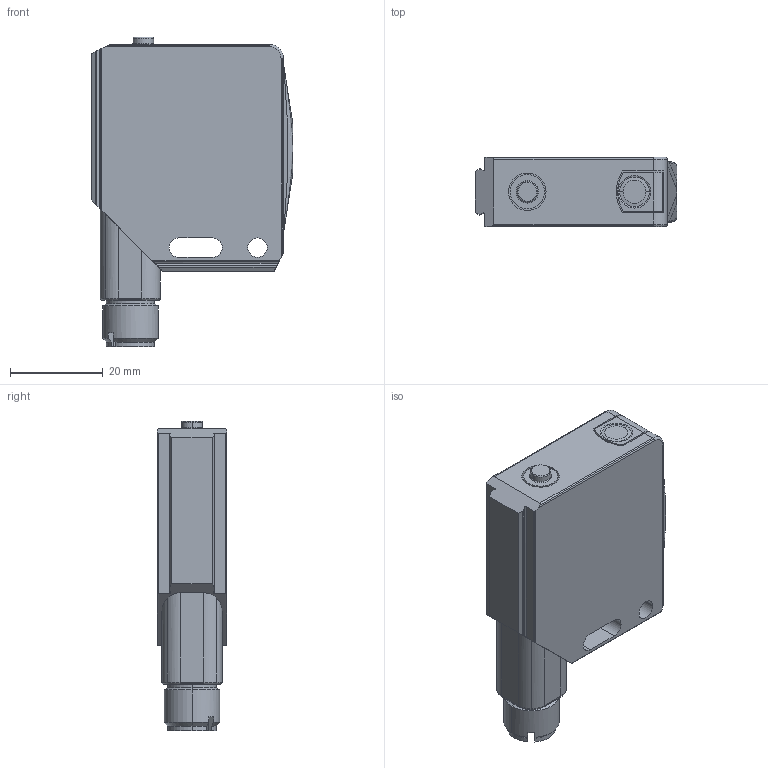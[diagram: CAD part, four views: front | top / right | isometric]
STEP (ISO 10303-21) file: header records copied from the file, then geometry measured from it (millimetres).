
FILE_DESCRIPTION((''),'2;1');
FILE_NAME('Y:\Microsonic\100436 Sensoren\Garantie\G2_Daten\050823_Austauschformate\STP\ucs-15_CX_QM.stp','2005-08-23T14:45:00',('ohle'),(''),'Autodesk Inventor 7','Autodesk Inventor 7','');
FILE_SCHEMA(('AUTOMOTIVE_DESIGN { 1 0 10303 214 1 1 1 1 }'));
Length unit declared in the file: millimetre
Products named in the file (1): ucs-15_CX_QM
Bounding box: 43.51 x 15 x 66.85 mm (x, y, z)
Volume: 30265 mm3; surface area: 8302.4 mm2
Topology: 1 solids, 1 shells, 179 faces, 466 edges, 293 vertices
Faces by surface type: cylinder 84, plane 56, cone 13, sphere 10, torus 8, bspline 8
Entity records: 6547 total; most frequent: CARTESIAN_POINT 2135, DIRECTION 960, ORIENTED_EDGE 902, EDGE_CURVE 451, AXIS2_PLACEMENT_3D 377, VERTEX_POINT 288, VECTOR 206, LINE 206
